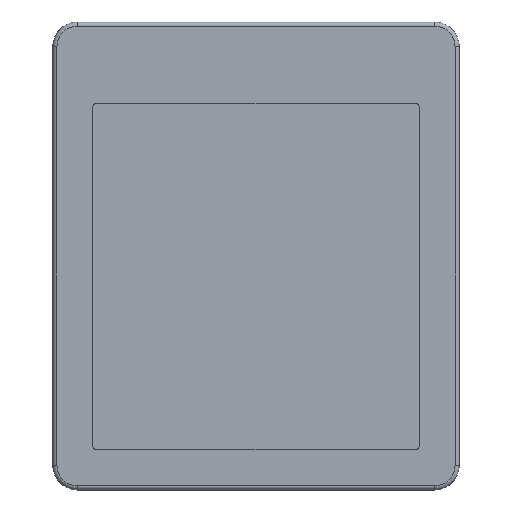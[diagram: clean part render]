
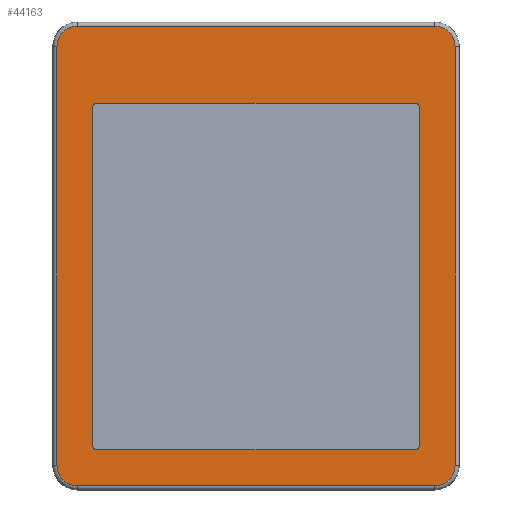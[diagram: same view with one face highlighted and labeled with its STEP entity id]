
A CAD part, top view. The second image highlights one B-rep face of the part: STEP entity #44163.
In plain terms, the highlighted planar face has unit normal (0, 0, 1).
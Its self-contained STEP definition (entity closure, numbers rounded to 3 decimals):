
#43394=DIRECTION('',(-1.,0.,0.));
#43395=VECTOR('',#43394,87.);
#43396=CARTESIAN_POINT('',(43.5,63.5,6.5));
#43397=LINE('',#43396,#43395);
#43398=CARTESIAN_POINT('',(43.5,58.5,6.5));
#43399=DIRECTION('',(0.,0.,1.));
#43400=DIRECTION('',(1.,0.,0.));
#43401=AXIS2_PLACEMENT_3D('',#43398,#43399,#43400);
#43403=DIRECTION('',(0.,1.,0.));
#43404=VECTOR('',#43403,102.);
#43405=CARTESIAN_POINT('',(48.5,-43.5,6.5));
#43406=LINE('',#43405,#43404);
#43407=CARTESIAN_POINT('',(43.5,-43.5,6.5));
#43408=DIRECTION('',(0.,0.,1.));
#43409=DIRECTION('',(0.,-1.,0.));
#43410=AXIS2_PLACEMENT_3D('',#43407,#43408,#43409);
#43412=DIRECTION('',(1.,0.,0.));
#43413=VECTOR('',#43412,87.);
#43414=CARTESIAN_POINT('',(-43.5,-48.5,6.5));
#43415=LINE('',#43414,#43413);
#43416=CARTESIAN_POINT('',(-43.5,-43.5,6.5));
#43417=DIRECTION('',(0.,0.,1.));
#43418=DIRECTION('',(-1.,0.,0.));
#43419=AXIS2_PLACEMENT_3D('',#43416,#43417,#43418);
#43421=DIRECTION('',(0.,-1.,0.));
#43422=VECTOR('',#43421,102.);
#43423=CARTESIAN_POINT('',(-48.5,58.5,6.5));
#43424=LINE('',#43423,#43422);
#43425=CARTESIAN_POINT('',(-43.5,58.5,6.5));
#43426=DIRECTION('',(0.,0.,1.));
#43427=DIRECTION('',(0.,1.,0.));
#43428=AXIS2_PLACEMENT_3D('',#43425,#43426,#43427);
#43430=DIRECTION('',(1.,0.,0.));
#43431=VECTOR('',#43430,77.5);
#43432=CARTESIAN_POINT('',(-38.75,-39.75,6.5));
#43433=LINE('',#43432,#43431);
#43819=DIRECTION('',(1.,0.,0.));
#43820=VECTOR('',#43819,77.5);
#43821=CARTESIAN_POINT('',(-38.75,44.75,6.5));
#43822=LINE('',#43821,#43820);
#43831=CARTESIAN_POINT('',(-38.75,43.75,6.5));
#43832=DIRECTION('',(0.,0.,-1.));
#43833=DIRECTION('',(-1.,0.,0.));
#43834=AXIS2_PLACEMENT_3D('',#43831,#43832,#43833);
#43853=DIRECTION('',(0.,1.,0.));
#43854=VECTOR('',#43853,82.5);
#43855=CARTESIAN_POINT('',(-39.75,-38.75,6.5));
#43856=LINE('',#43855,#43854);
#43857=CARTESIAN_POINT('',(-38.75,-38.75,6.5));
#43858=DIRECTION('',(0.,0.,-1.));
#43859=DIRECTION('',(0.,-1.,0.));
#43860=AXIS2_PLACEMENT_3D('',#43857,#43858,#43859);
#43875=CARTESIAN_POINT('',(38.75,-38.75,6.5));
#43876=DIRECTION('',(0.,0.,-1.));
#43877=DIRECTION('',(1.,0.,0.));
#43878=AXIS2_PLACEMENT_3D('',#43875,#43876,#43877);
#43889=DIRECTION('',(0.,-1.,0.));
#43890=VECTOR('',#43889,82.5);
#43891=CARTESIAN_POINT('',(39.75,43.75,6.5));
#43892=LINE('',#43891,#43890);
#43901=CARTESIAN_POINT('',(38.75,43.75,6.5));
#43902=DIRECTION('',(0.,0.,-1.));
#43903=DIRECTION('',(0.,1.,0.));
#43904=AXIS2_PLACEMENT_3D('',#43901,#43902,#43903);
#43974=CARTESIAN_POINT('',(43.5,63.5,6.5));
#43975=CARTESIAN_POINT('',(-43.5,63.5,6.5));
#43976=VERTEX_POINT('',#43974);
#43977=VERTEX_POINT('',#43975);
#43982=CARTESIAN_POINT('',(-48.5,58.5,6.5));
#43983=VERTEX_POINT('',#43982);
#43986=CARTESIAN_POINT('',(-48.5,-43.5,6.5));
#43987=VERTEX_POINT('',#43986);
#43990=CARTESIAN_POINT('',(-43.5,-48.5,6.5));
#43991=VERTEX_POINT('',#43990);
#43994=CARTESIAN_POINT('',(43.5,-48.5,6.5));
#43995=VERTEX_POINT('',#43994);
#43998=CARTESIAN_POINT('',(48.5,-43.5,6.5));
#43999=VERTEX_POINT('',#43998);
#44002=CARTESIAN_POINT('',(48.5,58.5,6.5));
#44003=VERTEX_POINT('',#44002);
#44058=CARTESIAN_POINT('',(-38.75,-39.75,6.5));
#44060=VERTEX_POINT('',#44058);
#44062=CARTESIAN_POINT('',(-39.75,-38.75,6.5));
#44064=VERTEX_POINT('',#44062);
#44066=CARTESIAN_POINT('',(39.75,-38.75,6.5));
#44068=VERTEX_POINT('',#44066);
#44070=CARTESIAN_POINT('',(38.75,-39.75,6.5));
#44072=VERTEX_POINT('',#44070);
#44074=CARTESIAN_POINT('',(-39.75,43.75,6.5));
#44076=VERTEX_POINT('',#44074);
#44078=CARTESIAN_POINT('',(-38.75,44.75,6.5));
#44080=VERTEX_POINT('',#44078);
#44082=CARTESIAN_POINT('',(38.75,44.75,6.5));
#44084=VERTEX_POINT('',#44082);
#44086=CARTESIAN_POINT('',(39.75,43.75,6.5));
#44088=VERTEX_POINT('',#44086);
#44122=CARTESIAN_POINT('',(0.,0.,6.5));
#44123=DIRECTION('',(0.,0.,1.));
#44124=DIRECTION('',(1.,0.,0.));
#44125=AXIS2_PLACEMENT_3D('',#44122,#44123,#44124);
#44126=PLANE('',#44125);
#44128=ORIENTED_EDGE('',*,*,#44127,.F.);
#44130=ORIENTED_EDGE('',*,*,#44129,.F.);
#44132=ORIENTED_EDGE('',*,*,#44131,.F.);
#44134=ORIENTED_EDGE('',*,*,#44133,.F.);
#44136=ORIENTED_EDGE('',*,*,#44135,.F.);
#44138=ORIENTED_EDGE('',*,*,#44137,.F.);
#44140=ORIENTED_EDGE('',*,*,#44139,.F.);
#44142=ORIENTED_EDGE('',*,*,#44141,.F.);
#44143=EDGE_LOOP('',(#44128,#44130,#44132,#44134,#44136,#44138,#44140,#44142));
#44144=FACE_OUTER_BOUND('',#44143,.F.);
#44146=ORIENTED_EDGE('',*,*,#44145,.F.);
#44148=ORIENTED_EDGE('',*,*,#44147,.F.);
#44150=ORIENTED_EDGE('',*,*,#44149,.F.);
#44152=ORIENTED_EDGE('',*,*,#44151,.F.);
#44154=ORIENTED_EDGE('',*,*,#44153,.F.);
#44156=ORIENTED_EDGE('',*,*,#44155,.F.);
#44158=ORIENTED_EDGE('',*,*,#44157,.T.);
#44160=ORIENTED_EDGE('',*,*,#44159,.F.);
#44161=EDGE_LOOP('',(#44146,#44148,#44150,#44152,#44154,#44156,#44158,#44160));
#44162=FACE_BOUND('',#44161,.F.);
#43402=CIRCLE('',#43401,5.);
#43411=CIRCLE('',#43410,5.);
#43420=CIRCLE('',#43419,5.);
#43429=CIRCLE('',#43428,5.);
#43835=CIRCLE('',#43834,1.);
#43861=CIRCLE('',#43860,1.);
#43879=CIRCLE('',#43878,1.);
#43905=CIRCLE('',#43904,1.);
#44127=EDGE_CURVE('',#43976,#43977,#43397,.T.);
#44129=EDGE_CURVE('',#44003,#43976,#43402,.T.);
#44131=EDGE_CURVE('',#43999,#44003,#43406,.T.);
#44133=EDGE_CURVE('',#43995,#43999,#43411,.T.);
#44135=EDGE_CURVE('',#43991,#43995,#43415,.T.);
#44137=EDGE_CURVE('',#43987,#43991,#43420,.T.);
#44139=EDGE_CURVE('',#43983,#43987,#43424,.T.);
#44141=EDGE_CURVE('',#43977,#43983,#43429,.T.);
#44145=EDGE_CURVE('',#44088,#44068,#43892,.T.);
#44147=EDGE_CURVE('',#44084,#44088,#43905,.T.);
#44149=EDGE_CURVE('',#44080,#44084,#43822,.T.);
#44151=EDGE_CURVE('',#44076,#44080,#43835,.T.);
#44153=EDGE_CURVE('',#44064,#44076,#43856,.T.);
#44155=EDGE_CURVE('',#44060,#44064,#43861,.T.);
#44157=EDGE_CURVE('',#44060,#44072,#43433,.T.);
#44159=EDGE_CURVE('',#44068,#44072,#43879,.T.);
#44163=ADVANCED_FACE('',(#44144,#44162),#44126,.T.);
